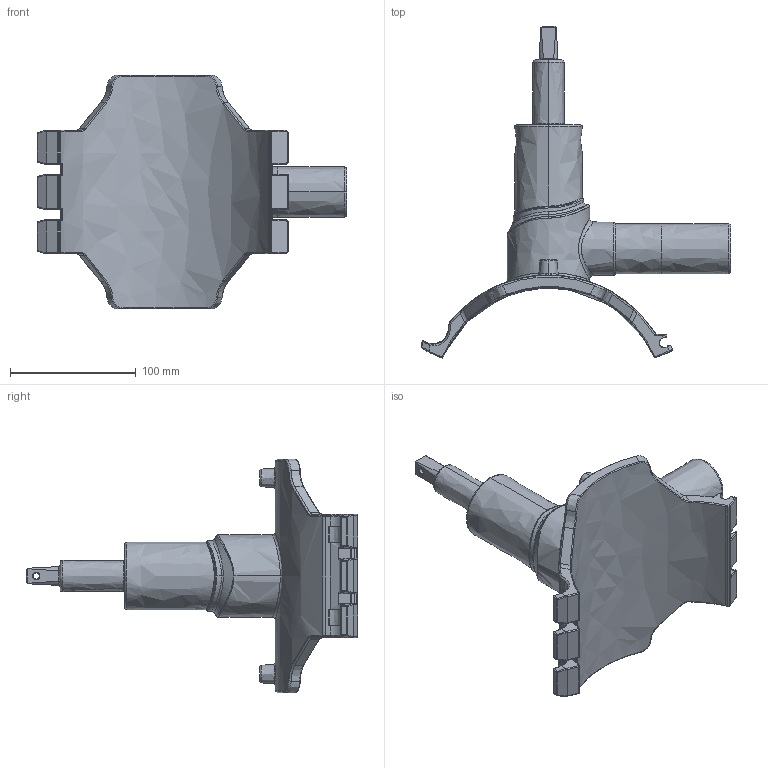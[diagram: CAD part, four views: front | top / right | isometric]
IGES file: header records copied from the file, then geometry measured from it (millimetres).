
Start section:  PTC IGES file: dav2_d180_40_01.igs
Global section: file name: dav2_d180_40_01.igs; native system: Creo Parametric by PTC Inc.; preprocessor: 2019030; author: demmerls; organization: Unknown; date: 20201126.132904; units: millimetre
Bounding box: 246.3 x 263.95 x 186 mm (x, y, z)
Surface area: 125502.6 mm2 (no closed solid volume)
Topology: 0 solids, 0 shells, 568 faces, 2762 edges, 2756 vertices
Faces by surface type: bspline 568
